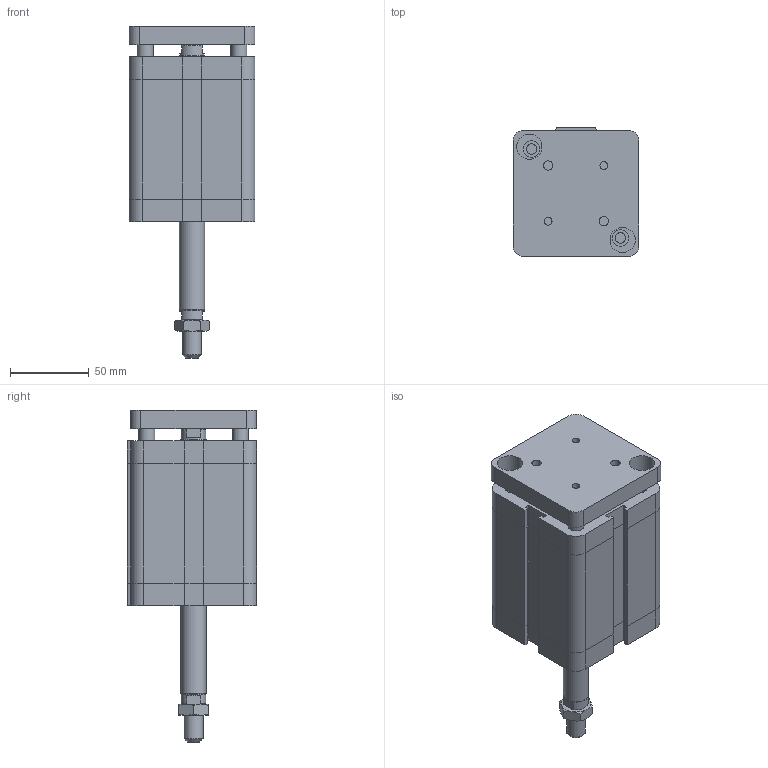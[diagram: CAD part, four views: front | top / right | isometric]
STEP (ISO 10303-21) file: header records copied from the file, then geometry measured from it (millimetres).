
FILE_DESCRIPTION((''),'2;1');
FILE_NAME('I:\Area Tecnica\Disegni\VARIE-3D\Componenti\EUROPE\15##_###_####_09_#\1561_63_0055_09_1.iam.stp','2009-04-20T15:39:20',(''),(''),'Autodesk Inventor 2009','Autodesk Inventor 2009','');
FILE_SCHEMA(('AUTOMOTIVE_DESIGN { 1 0 10303 214 1 1 1 1 }'));
Length unit declared in the file: millimetre
Products named in the file (4): 1561_63_0055_09_1; 1561_63_0055_08_1_C; 1561_63_0055_09_1_SA; DBFM12
Assembly tree (3 placements, depth 2):
  1561_63_0055_09_1
    1561_63_0055_08_1_C
    1561_63_0055_09_1_SA
    DBFM12
Bounding box: 80 x 82 x 211 mm (x, y, z)
Volume: 737933.3 mm3; surface area: 93285.5 mm2
Topology: 3 solids, 3 shells, 209 faces, 470 edges, 287 vertices
Faces by surface type: plane 120, bspline 45, cylinder 23, cone 21
Full cylindrical faces by diameter (mm): 10 x2, 10.8 x1, 12 x1, 15.6 x2, 16 x1
Entity records: 5963 total; most frequent: CARTESIAN_POINT 1453, DIRECTION 838, ORIENTED_EDGE 834, EDGE_CURVE 417, AXIS2_PLACEMENT_3D 282, EDGE_LOOP 282, VECTOR 274, LINE 274
